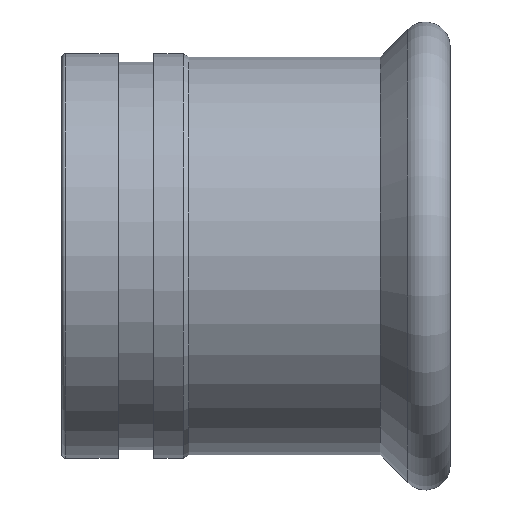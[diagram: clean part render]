
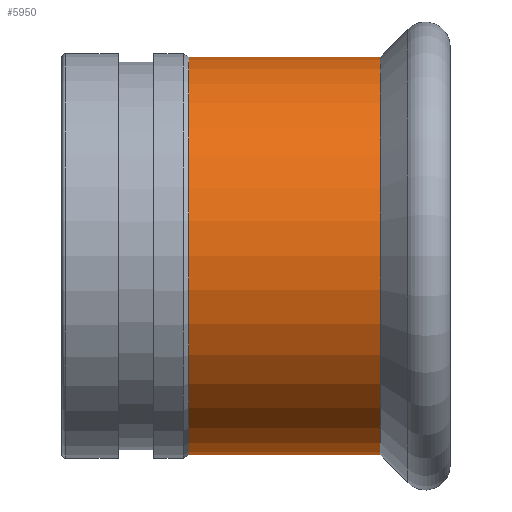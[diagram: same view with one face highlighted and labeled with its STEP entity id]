
A CAD part, top view. The second image highlights one B-rep face of the part: STEP entity #5950.
In plain terms, the highlighted cylindrical face has radius 56.35 mm (diameter 112.7 mm), a partial arc.
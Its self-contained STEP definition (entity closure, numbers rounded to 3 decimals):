
#1110=CARTESIAN_POINT('',(70.19,0.,0.));
#1120=DIRECTION('',(-1.,0.,0.));
#1130=DIRECTION('',(0.,1.,0.));
#1140=AXIS2_PLACEMENT_3D('',#1110,#1120,#1130);
#1150=CYLINDRICAL_SURFACE('',#1140,56.35);
#1160=CARTESIAN_POINT('',(70.19,56.35,0.));
#1170=DIRECTION('',(-1.,0.,0.));
#1180=VECTOR('',#1170,1.);
#1190=LINE('',#1160,#1180);
#1200=CARTESIAN_POINT('',(90.151,56.35,0.));
#1210=VERTEX_POINT('',#1200);
#1220=CARTESIAN_POINT('',(36.,56.35,0.));
#1230=VERTEX_POINT('',#1220);
#1240=EDGE_CURVE('',#1210,#1230,#1190,.T.);
#1260=CARTESIAN_POINT('',(36.,0.,0.));
#1270=DIRECTION('',(-1.,0.,0.));
#1280=DIRECTION('',(0.,1.,0.));
#1290=AXIS2_PLACEMENT_3D('',#1260,#1270,#1280);
#1300=CIRCLE('',#1290,56.35);
#1310=CARTESIAN_POINT('',(36.,-56.35,0.)
);
#1320=VERTEX_POINT('',#1310);
#1350=CARTESIAN_POINT('',(70.19,-56.35,0.)
);
#1360=DIRECTION('',(-1.,0.,0.));
#1370=VECTOR('',#1360,1.);
#1380=LINE('',#1350,#1370);
#1390=CARTESIAN_POINT('',(90.151,-56.35,0.)
);
#1400=VERTEX_POINT('',#1390);
#1410=EDGE_CURVE('',#1400,#1320,#1380,.T.);
#1430=CARTESIAN_POINT('',(90.151,0.,0.));
#1440=DIRECTION('',(1.,0.,0.));
#1450=DIRECTION('',(0.,1.,0.));
#1460=AXIS2_PLACEMENT_3D('',#1430,#1440,#1450);
#1470=CIRCLE('',#1460,56.35);
#2870=EDGE_CURVE('',#1320,#1230,#1300,.T.);
#5360=EDGE_CURVE('',#1210,#1400,#1470,.T.);
#5890=ORIENTED_EDGE('',*,*,#1240,.T.);
#5900=ORIENTED_EDGE('',*,*,#5360,.F.);
#5910=ORIENTED_EDGE('',*,*,#1410,.F.);
#5920=ORIENTED_EDGE('',*,*,#2870,.F.);
#5930=EDGE_LOOP('',(#5920,#5910,#5900,#5890));
#5940=FACE_OUTER_BOUND('',#5930,.T.);
#5950=ADVANCED_FACE('',(#5940),#1150,.T.);
